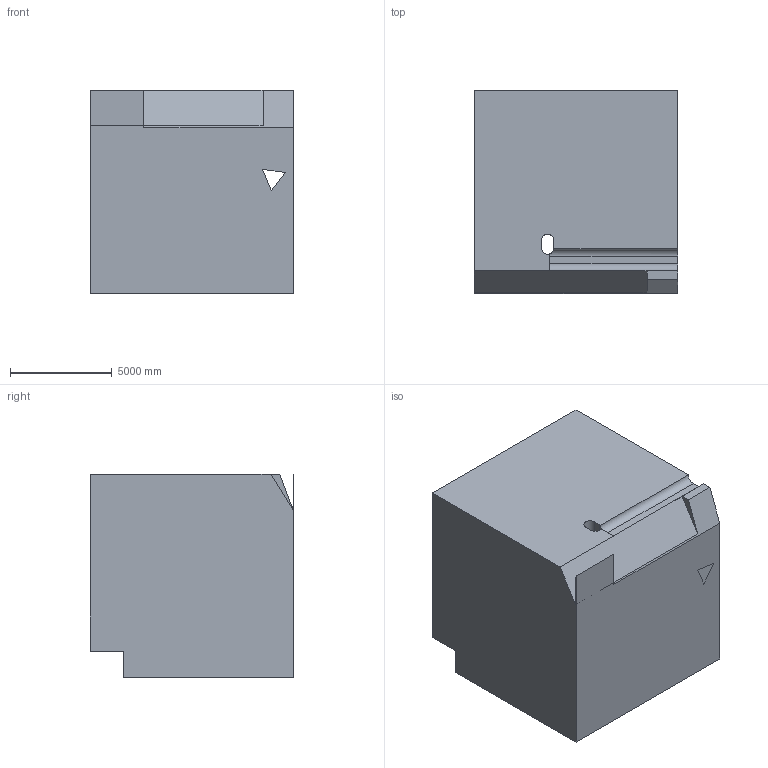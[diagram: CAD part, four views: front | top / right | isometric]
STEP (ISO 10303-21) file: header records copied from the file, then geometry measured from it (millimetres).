
FILE_DESCRIPTION (( 'STEP AP203' ), '1' );
FILE_NAME ('179.STEP', '2022-09-06T13:34:24', ( 'user' ), ( '' ), 'SwSTEP 2.0', 'SolidWorks 2021', '' );
FILE_SCHEMA (( 'CONFIG_CONTROL_DESIGN' ));
Length unit declared in the file: centimetre
Products named in the file (1): 179
Bounding box: 10000 x 10000 x 10000 mm (x, y, z)
Volume: 955666125561.1 mm3; surface area: 658517525.4 mm2
Topology: 1 solids, 1 shells, 33 faces, 93 edges, 61 vertices
Faces by surface type: plane 27, cylinder 6
Entity records: 1194 total; most frequent: CARTESIAN_POINT 243, ORIENTED_EDGE 186, DIRECTION 173, EDGE_CURVE 93, LINE 79, VECTOR 79, VERTEX_POINT 61, AXIS2_PLACEMENT_3D 47
